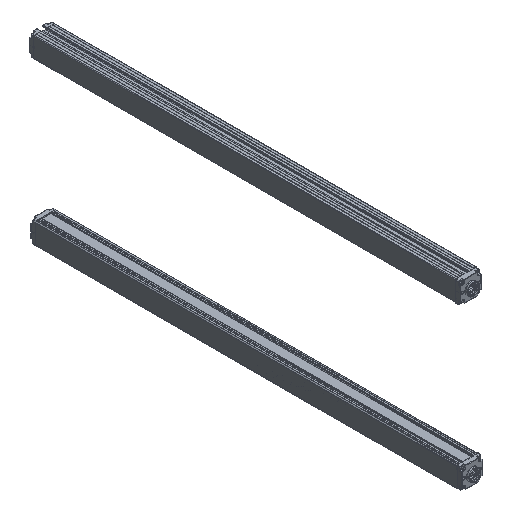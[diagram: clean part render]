
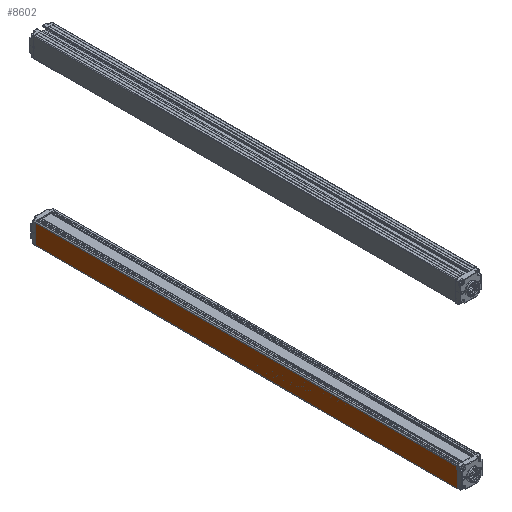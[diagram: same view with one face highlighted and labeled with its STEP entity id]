
A CAD part, isometric view. The second image highlights one B-rep face of the part: STEP entity #8602.
In plain terms, the highlighted planar face has unit normal (-1, 0, -0.009) as drawn and (1, 0, 0) by its records, which use the part's own axes.
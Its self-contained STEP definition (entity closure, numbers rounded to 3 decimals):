
#263 = VECTOR ( 'NONE', #4471, 1000. ) ;
#508 = DIRECTION ( 'NONE',  ( 0., 0., 1. ) ) ;
#997 = EDGE_CURVE ( 'NONE', #10353, #14724, #11385, .T. ) ;
#1893 = PLANE ( 'NONE',  #6079 ) ;
#2355 = CARTESIAN_POINT ( 'NONE',  ( 15., 600., -16.693 ) ) ;
#3135 = VECTOR ( 'NONE', #5006, 1000. ) ;
#4015 = ORIENTED_EDGE ( 'NONE', *, *, #7578, .T. ) ;
#4250 = DIRECTION ( 'NONE',  ( 0., 1., 0. ) ) ;
#4471 = DIRECTION ( 'NONE',  ( 0., 0., -1. ) ) ;
#4639 = CARTESIAN_POINT ( 'NONE',  ( 15., 600., -16.9 ) ) ;
#5006 = DIRECTION ( 'NONE',  ( 0., -1., 0. ) ) ;
#6079 = AXIS2_PLACEMENT_3D ( 'NONE', #7451, #12991, #508 ) ;
#7451 = CARTESIAN_POINT ( 'NONE',  ( 15., 600., -16.9 ) ) ;
#7578 = EDGE_CURVE ( 'NONE', #15320, #10353, #11906, .T. ) ;
#7693 = CARTESIAN_POINT ( 'NONE',  ( 15., 0., -16.693 ) ) ;
#8566 = CARTESIAN_POINT ( 'NONE',  ( 15., 0., 10.9 ) ) ;
#8602 = ADVANCED_FACE ( 'NONE', ( #14364 ), #1893, .F. ) ;
#9186 = VECTOR ( 'NONE', #10192, 1000. ) ;
#9312 = ORIENTED_EDGE ( 'NONE', *, *, #13783, .F. ) ;
#10192 = DIRECTION ( 'NONE',  ( 0., 0., -1. ) ) ;
#10262 = ORIENTED_EDGE ( 'NONE', *, *, #11177, .T. ) ;
#10353 = VERTEX_POINT ( 'NONE', #8566 ) ;
#11167 = LINE ( 'NONE', #16712, #16248 ) ;
#11177 = EDGE_CURVE ( 'NONE', #14724, #15545, #11167, .T. ) ;
#11385 = LINE ( 'NONE', #16928, #263 ) ;
#11618 = EDGE_LOOP ( 'NONE', ( #14041, #10262, #9312, #4015 ) ) ;
#11906 = LINE ( 'NONE', #17456, #3135 ) ;
#12991 = DIRECTION ( 'NONE',  ( -1., 0., 0. ) ) ;
#13783 = EDGE_CURVE ( 'NONE', #15320, #15545, #17089, .T. ) ;
#14041 = ORIENTED_EDGE ( 'NONE', *, *, #997, .T. ) ;
#14364 = FACE_OUTER_BOUND ( 'NONE', #11618, .T. ) ;
#14724 = VERTEX_POINT ( 'NONE', #7693 ) ;
#15320 = VERTEX_POINT ( 'NONE', #17926 ) ;
#15545 = VERTEX_POINT ( 'NONE', #2355 ) ;
#16248 = VECTOR ( 'NONE', #4250, 1000. ) ;
#16712 = CARTESIAN_POINT ( 'NONE',  ( 15., 600., -16.693 ) ) ;
#16928 = CARTESIAN_POINT ( 'NONE',  ( 15., 0., -16.9 ) ) ;
#17089 = LINE ( 'NONE', #4639, #9186 ) ;
#17456 = CARTESIAN_POINT ( 'NONE',  ( 15., 600., 10.9 ) ) ;
#17926 = CARTESIAN_POINT ( 'NONE',  ( 15., 600., 10.9 ) ) ;
